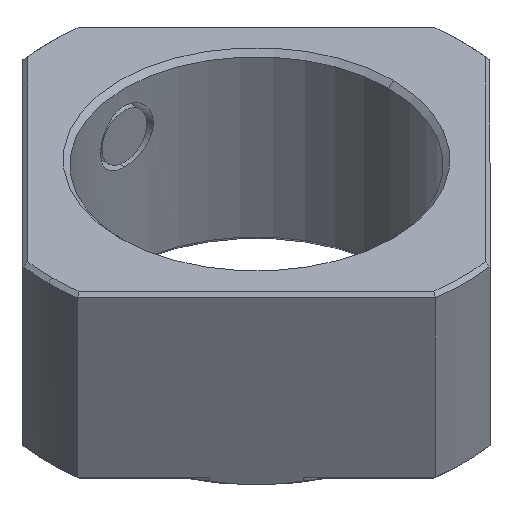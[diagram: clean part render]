
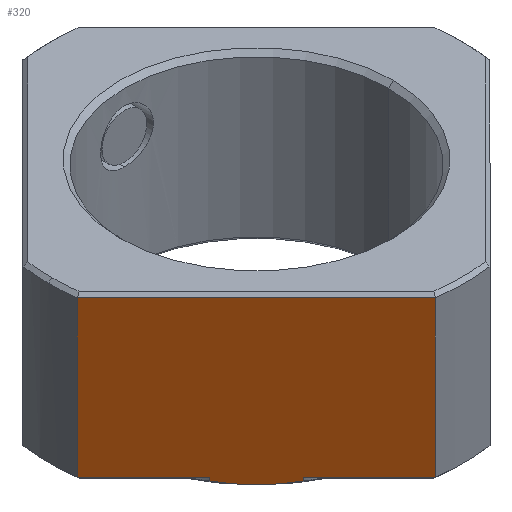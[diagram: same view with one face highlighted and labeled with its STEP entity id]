
A CAD part, isometric view. The second image highlights one B-rep face of the part: STEP entity #320.
In plain terms, the highlighted planar face has unit normal (-0.707, -0.707, 0).
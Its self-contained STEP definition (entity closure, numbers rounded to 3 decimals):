
#243 = EDGE_CURVE ( 'NONE', #2867, #258, #1034, .T. ) ;
#258 = VERTEX_POINT ( 'NONE', #1044 ) ;
#318 = ORIENTED_EDGE ( 'NONE', *, *, #319, .T. ) ;
#319 = EDGE_CURVE ( 'NONE', #325, #1327, #1159, .T. ) ;
#320 = ADVANCED_FACE ( 'NONE', ( #1158 ), #1153, .T. ) ;
#321 = EDGE_LOOP ( 'NONE', ( #322, #323, #318, #326, #327, #400, #397, #395, #2876 ) ) ;
#322 = ORIENTED_EDGE ( 'NONE', *, *, #243, .F. ) ;
#323 = ORIENTED_EDGE ( 'NONE', *, *, #324, .T. ) ;
#324 = EDGE_CURVE ( 'NONE', #2867, #325, #1148, .T. ) ;
#325 = VERTEX_POINT ( 'NONE', #1202 ) ;
#326 = ORIENTED_EDGE ( 'NONE', *, *, #1326, .T. ) ;
#327 = ORIENTED_EDGE ( 'NONE', *, *, #328, .T. ) ;
#328 = EDGE_CURVE ( 'NONE', #1328, #329, #1197, .T. ) ;
#329 = VERTEX_POINT ( 'NONE', #1193 ) ;
#382 = EDGE_CURVE ( 'NONE', #393, #258, #1377, .T. ) ;
#393 = VERTEX_POINT ( 'NONE', #1421 ) ;
#394 = EDGE_CURVE ( 'NONE', #393, #2835, #1420, .T. ) ;
#395 = ORIENTED_EDGE ( 'NONE', *, *, #394, .F. ) ;
#396 = EDGE_CURVE ( 'NONE', #399, #2835, #1416, .T. ) ;
#397 = ORIENTED_EDGE ( 'NONE', *, *, #396, .T. ) ;
#398 = EDGE_CURVE ( 'NONE', #399, #329, #1412, .T. ) ;
#399 = VERTEX_POINT ( 'NONE', #1408 ) ;
#400 = ORIENTED_EDGE ( 'NONE', *, *, #398, .F. ) ;
#1031 = DIRECTION ( 'NONE',  ( 0., 0., 1. ) ) ;
#1032 = VECTOR ( 'NONE', #1031, 1000. ) ;
#1033 = CARTESIAN_POINT ( 'NONE',  ( -21.231, -14.125, -25.001 ) ) ;
#1034 = LINE ( 'NONE', #1033, #1032 ) ;
#1044 = CARTESIAN_POINT ( 'NONE',  ( -21.231, -14.125, -24. ) ) ;
#1148 = B_SPLINE_CURVE_WITH_KNOTS ( 'NONE', 3,
 ( #1201, #1200, #1199, #1198 ),
 .UNSPECIFIED., .F., .F.,
 ( 4, 4 ),
 ( 0., 0.005 ),
 .UNSPECIFIED. ) ;
#1149 = DIRECTION ( 'NONE',  ( 0.707, -0.707, 0. ) ) ;
#1150 = DIRECTION ( 'NONE',  ( -0.707, -0.707, 0. ) ) ;
#1151 = CARTESIAN_POINT ( 'NONE',  ( -35.355, 0., -24.5 ) ) ;
#1152 = AXIS2_PLACEMENT_3D ( 'NONE', #1151, #1150, #1149 ) ;
#1153 = PLANE ( 'NONE',  #1152 ) ;
#1154 = CARTESIAN_POINT ( 'NONE',  ( -14.125, -21.231, -24.5 ) ) ;
#1155 = CARTESIAN_POINT ( 'NONE',  ( -15.298, -20.058, -24.827 ) ) ;
#1156 = CARTESIAN_POINT ( 'NONE',  ( -16.482, -18.874, -25. ) ) ;
#1157 = CARTESIAN_POINT ( 'NONE',  ( -17.678, -17.678, -25. ) ) ;
#1158 = FACE_OUTER_BOUND ( 'NONE', #321, .T. ) ;
#1159 = B_SPLINE_CURVE_WITH_KNOTS ( 'NONE', 3,
 ( #1157, #1156, #1155, #1154 ),
 .UNSPECIFIED., .F., .F.,
 ( 4, 4 ),
 ( 0., 0.005 ),
 .UNSPECIFIED. ) ;
#1193 = CARTESIAN_POINT ( 'NONE',  ( -4.127, -31.228, -24. ) ) ;
#1194 = DIRECTION ( 'NONE',  ( 0.707, -0.707, 0. ) ) ;
#1195 = VECTOR ( 'NONE', #1194, 1000. ) ;
#1196 = CARTESIAN_POINT ( 'NONE',  ( -4.127, -31.228, -24. ) ) ;
#1197 = LINE ( 'NONE', #1196, #1195 ) ;
#1198 = CARTESIAN_POINT ( 'NONE',  ( -17.678, -17.678, -25. ) ) ;
#1199 = CARTESIAN_POINT ( 'NONE',  ( -18.874, -16.482, -25. ) ) ;
#1200 = CARTESIAN_POINT ( 'NONE',  ( -20.058, -15.298, -24.827 ) ) ;
#1201 = CARTESIAN_POINT ( 'NONE',  ( -21.231, -14.125, -24.5 ) ) ;
#1202 = CARTESIAN_POINT ( 'NONE',  ( -17.678, -17.678, -25. ) ) ;
#1326 = EDGE_CURVE ( 'NONE', #1327, #1328, #1759, .T. ) ;
#1327 = VERTEX_POINT ( 'NONE', #1752 ) ;
#1328 = VERTEX_POINT ( 'NONE', #1751 ) ;
#1374 = DIRECTION ( 'NONE',  ( 0.707, -0.707, 0. ) ) ;
#1375 = VECTOR ( 'NONE', #1374, 1000. ) ;
#1376 = CARTESIAN_POINT ( 'NONE',  ( -21.231, -14.125, -24. ) ) ;
#1377 = LINE ( 'NONE', #1376, #1375 ) ;
#1408 = CARTESIAN_POINT ( 'NONE',  ( -4.127, -31.228, -0.5 ) ) ;
#1409 = DIRECTION ( 'NONE',  ( 0., 0., -1. ) ) ;
#1410 = VECTOR ( 'NONE', #1409, 1000. ) ;
#1411 = CARTESIAN_POINT ( 'NONE',  ( -4.127, -31.228, -25.001 ) ) ;
#1412 = LINE ( 'NONE', #1411, #1410 ) ;
#1413 = DIRECTION ( 'NONE',  ( -0.707, 0.707, 0. ) ) ;
#1414 = VECTOR ( 'NONE', #1413, 1000. ) ;
#1415 = CARTESIAN_POINT ( 'NONE',  ( -35.355, 0., -0.5 ) ) ;
#1416 = LINE ( 'NONE', #1415, #1414 ) ;
#1417 = DIRECTION ( 'NONE',  ( 0., 0., 1. ) ) ;
#1418 = VECTOR ( 'NONE', #1417, 1000. ) ;
#1419 = CARTESIAN_POINT ( 'NONE',  ( -31.228, -4.127, -25.001 ) ) ;
#1420 = LINE ( 'NONE', #1419, #1418 ) ;
#1421 = CARTESIAN_POINT ( 'NONE',  ( -31.228, -4.127, -24. ) ) ;
#1751 = CARTESIAN_POINT ( 'NONE',  ( -14.125, -21.231, -24. ) ) ;
#1752 = CARTESIAN_POINT ( 'NONE',  ( -14.125, -21.231, -24.5 ) ) ;
#1753 = DIRECTION ( 'NONE',  ( 0., 0., 1. ) ) ;
#1754 = VECTOR ( 'NONE', #1753, 1000. ) ;
#1755 = CARTESIAN_POINT ( 'NONE',  ( -14.125, -21.231, -25.001 ) ) ;
#1759 = LINE ( 'NONE', #1755, #1754 ) ;
#2152 = CARTESIAN_POINT ( 'NONE',  ( -21.231, -14.125, -24.5 ) ) ;
#2175 = CARTESIAN_POINT ( 'NONE',  ( -31.228, -4.127, -0.5 ) ) ;
#2835 = VERTEX_POINT ( 'NONE', #2175 ) ;
#2867 = VERTEX_POINT ( 'NONE', #2152 ) ;
#2876 = ORIENTED_EDGE ( 'NONE', *, *, #382, .T. ) ;
